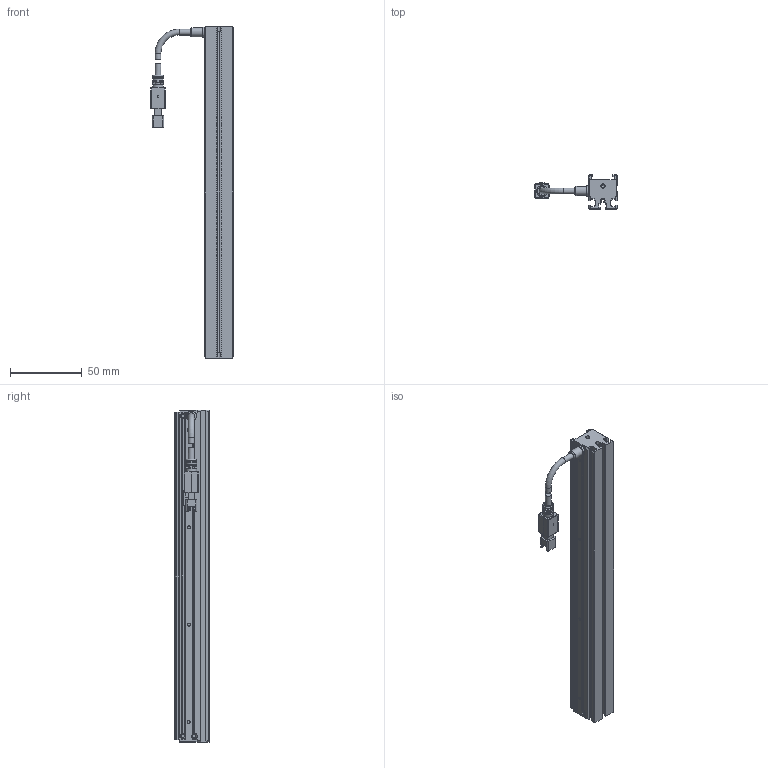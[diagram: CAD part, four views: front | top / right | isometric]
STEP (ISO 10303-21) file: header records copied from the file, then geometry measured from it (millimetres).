
FILE_DESCRIPTION (( 'STEP AP203' ), '1' );
FILE_NAME ('OPT-ULI23220-UV-V1.0 尨砩芞.STEP', '2024-12-10T10:47:27', ( '' ), ( '' ), 'SwSTEP 2.0', 'SolidWorks 2016', '' );
FILE_SCHEMA (( 'CONFIG_CONTROL_DESIGN' ));
Length unit declared in the file: millimetre
Products named in the file (1): OPT-ULI23220-UV-V1.0 尨砩芞
Bounding box: 57.6 x 24 x 232 mm (x, y, z)
Volume: 83337.9 mm3; surface area: 40635.1 mm2
Topology: 6 solids, 14 shells, 587 faces, 1528 edges, 984 vertices
Faces by surface type: plane 392, cylinder 138, cone 28, bspline 21, torus 8
Full cylindrical faces by diameter (mm): 1.1 x2, 1.4 x2, 1.6 x7, 2 x15, 2.4 x7, 2.5 x2, 3 x2, 3.5 x1, 4.1 x4, 6.5 x1, 7 x1, 7.5 x1
Entity records: 17962 total; most frequent: CARTESIAN_POINT 4174, ORIENTED_EDGE 2822, DIRECTION 2736, EDGE_CURVE 1411, LINE 960, VECTOR 960, VERTEX_POINT 944, AXIS2_PLACEMENT_3D 888
